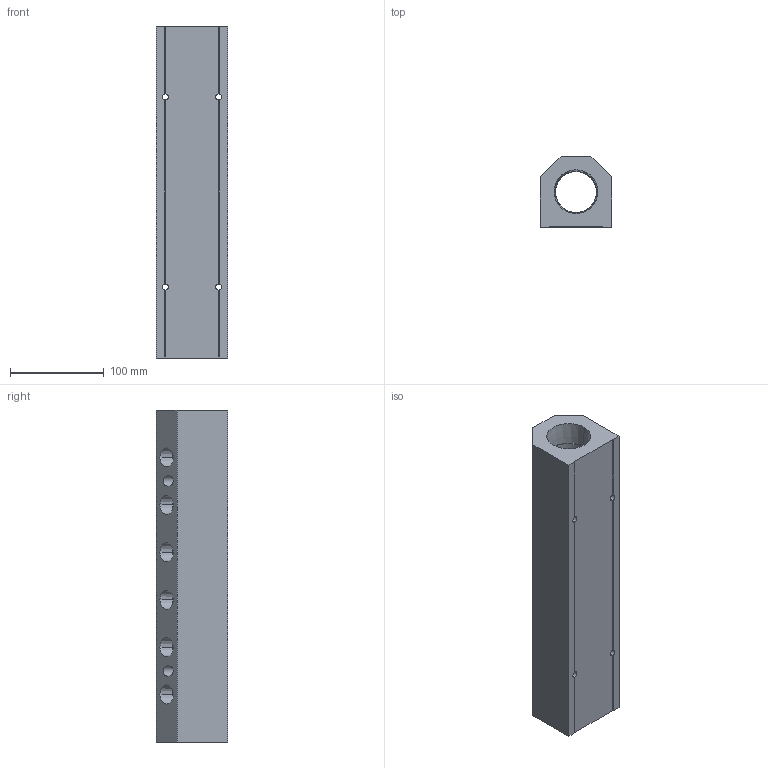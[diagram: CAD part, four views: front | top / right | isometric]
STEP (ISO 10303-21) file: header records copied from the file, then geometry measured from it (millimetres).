
FILE_DESCRIPTION (( 'STEP AP214' ), '1' );
FILE_NAME ('ALM6BD-N8N24-355R.step', '2022-02-07T09:23:29', ( '' ), ( '' ), 'SwSTEP 2.0', 'SolidWorks 2020', '' );
FILE_SCHEMA (( 'AUTOMOTIVE_DESIGN' ));
Length unit declared in the file: millimetre
Products named in the file (1): ALM6BD-N8N24-355R
Bounding box: 76.2 x 76.2 x 355 mm (x, y, z)
Volume: 1256921.3 mm3; surface area: 166674 mm2
Topology: 1 solids, 1 shells, 335 faces, 889 edges, 590 vertices
Faces by surface type: plane 205, bspline 84, cone 28, cylinder 18
Entity records: 19630 total; most frequent: CARTESIAN_POINT 8673, ORIENTED_EDGE 1778, DIRECTION 1245, EDGE_CURVE 889, VECTOR 621, LINE 621, VERTEX_POINT 590, EDGE_LOOP 403
